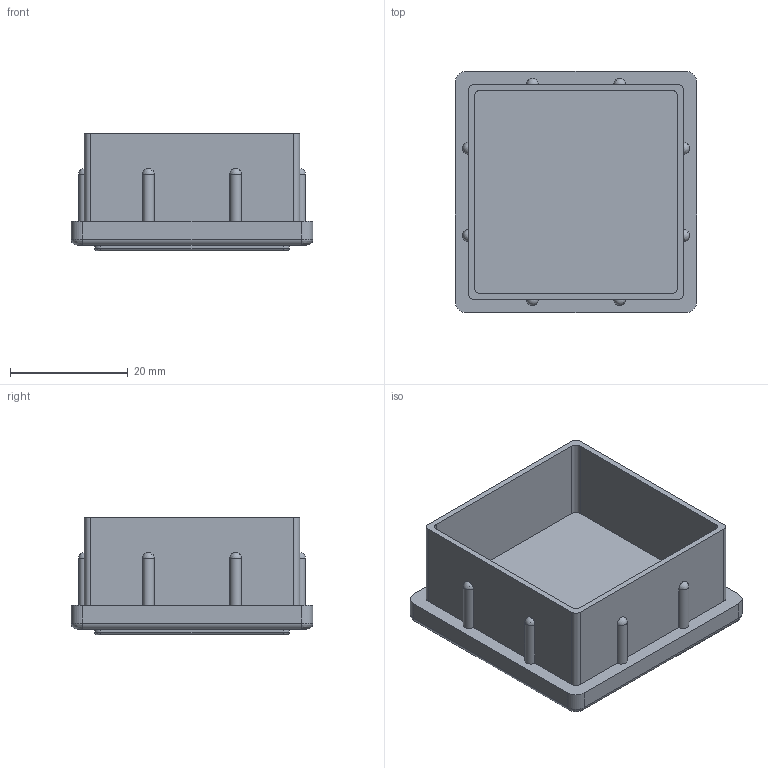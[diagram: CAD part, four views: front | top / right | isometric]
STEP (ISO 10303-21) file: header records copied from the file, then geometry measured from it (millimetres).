
FILE_DESCRIPTION(/* description */ (''),/* implementation_level */ '2;1');
FILE_NAME(/* name */ '\\NAS\db20\PR4-4040\DR_PR4-4040.stp',/* time_stamp */ '2017-09-25T09:52:48+09:00',/* author */ ('user'),/* organization */ (''),/* preprocessor_version */ 'ST-DEVELOPER v15.6',/* originating_system */ 'Autodesk Inventor 2015',/* authorisation */ '');
FILE_SCHEMA (('AUTOMOTIVE_DESIGN { 1 0 10303 214 3 1 1 }'));
Length unit declared in the file: millimetre
Products named in the file (1): DR_PR4-4040
Bounding box: 41 x 41 x 20 mm (x, y, z)
Volume: 11185.6 mm3; surface area: 11119.4 mm2
Topology: 2 solids, 2 shells, 78 faces, 200 edges, 128 vertices
Faces by surface type: cylinder 32, plane 30, sphere 8, bspline 8
Entity records: 2247 total; most frequent: CARTESIAN_POINT 431, DIRECTION 398, ORIENTED_EDGE 352, EDGE_CURVE 176, AXIS2_PLACEMENT_3D 151, VERTEX_POINT 112, LINE 96, VECTOR 96
